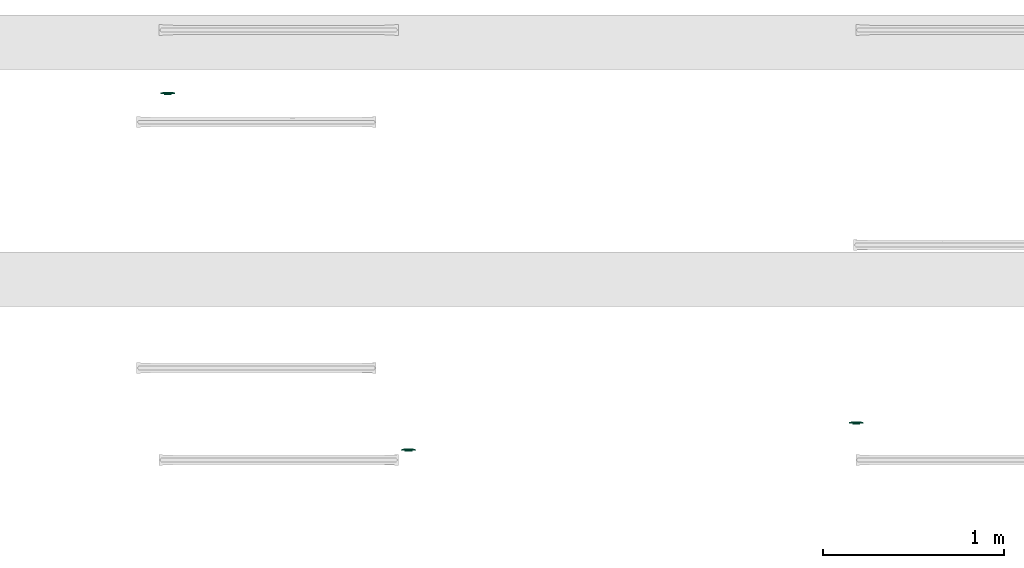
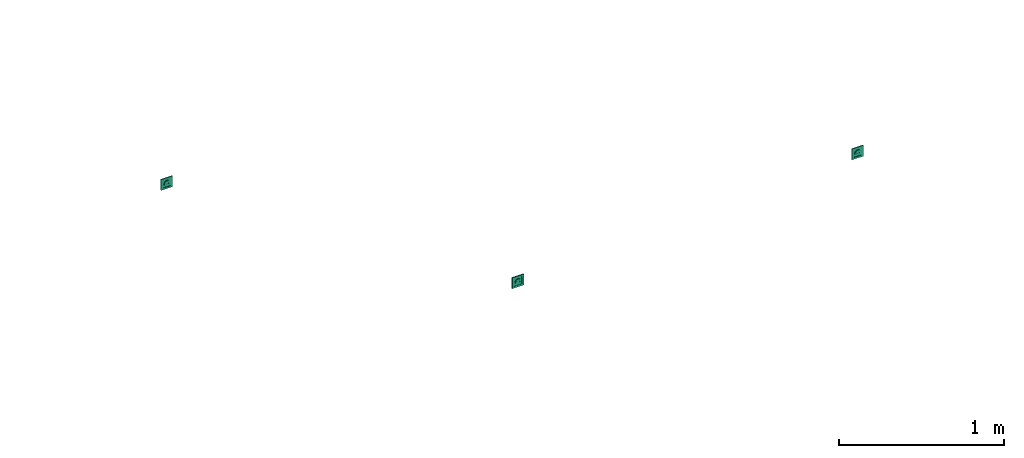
# One storey, part 24 of 146: 3 flow terminals.
"""IFC2X3 building model written with IfcOpenShell, lengths in metres."""

from ifc_helpers import new_model, entity, si_unit, converted_unit, derived_unit, direction, frame, origin, place, context, subcontext, project, spatial, face_set, surface_model, source, transform, mapped, type_object, type_shapes, element, save


model = new_model("IFC2X3")

# Units and contexts
model_context = context("Model", 3, precision=1e-05, world=origin(), true_north=direction((6.12303176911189e-17, 1.0)))
body_context = subcontext(model_context, "Body", "Model", "MODEL_VIEW")
ifc_project = project(units=[si_unit("LENGTHUNIT", "METRE"), si_unit("AREAUNIT", "SQUARE_METRE"), si_unit("VOLUMEUNIT", "CUBIC_METRE"), converted_unit("PLANEANGLEUNIT", "DEGREE", entity("IfcRatioMeasure", 0.0174532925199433), si_unit("PLANEANGLEUNIT", "RADIAN"), dimensions=[0, 0, 0, 0, 0, 0, 0]), si_unit("MASSUNIT", "GRAM", prefix="KILO"), derived_unit("MASSDENSITYUNIT", [(si_unit("MASSUNIT", "GRAM", prefix="KILO"), 1), (si_unit("LENGTHUNIT", "METRE"), -3)]), si_unit("TIMEUNIT", "SECOND"), si_unit("FREQUENCYUNIT", "HERTZ"), si_unit("THERMODYNAMICTEMPERATUREUNIT", "DEGREE_CELSIUS"), derived_unit("THERMALTRANSMITTANCEUNIT", [(si_unit("MASSUNIT", "GRAM", prefix="KILO"), 1), (si_unit("THERMODYNAMICTEMPERATUREUNIT", "KELVIN"), -1), (si_unit("TIMEUNIT", "SECOND"), -3)]), derived_unit("VOLUMETRICFLOWRATEUNIT", [(si_unit("LENGTHUNIT", "METRE"), 3), (si_unit("TIMEUNIT", "SECOND"), -1)]), si_unit("ELECTRICCURRENTUNIT", "AMPERE"), si_unit("ELECTRICVOLTAGEUNIT", "VOLT"), si_unit("POWERUNIT", "WATT"), si_unit("FORCEUNIT", "NEWTON"), si_unit("ILLUMINANCEUNIT", "LUX"), si_unit("LUMINOUSFLUXUNIT", "LUMEN"), si_unit("LUMINOUSINTENSITYUNIT", "CANDELA"), derived_unit("USERDEFINED", [(si_unit("MASSUNIT", "GRAM", prefix="KILO"), -1), (si_unit("LENGTHUNIT", "METRE"), -2), (si_unit("TIMEUNIT", "SECOND"), 3), (si_unit("LUMINOUSFLUXUNIT", "LUMEN"), 1)]), derived_unit("LINEARVELOCITYUNIT", [(si_unit("LENGTHUNIT", "METRE"), 1), (si_unit("TIMEUNIT", "SECOND"), -1)]), si_unit("PRESSUREUNIT", "PASCAL"), derived_unit("USERDEFINED", [(si_unit("LENGTHUNIT", "METRE"), -2), (si_unit("MASSUNIT", "GRAM", prefix="KILO"), 1), (si_unit("TIMEUNIT", "SECOND"), -2)])], contexts=[model_context])

# Site, building, storey
site_placement = place(None, origin())
site = spatial("IfcSite", under=ifc_project, at=site_placement, Name="Default", CompositionType="ELEMENT")
building_placement = place(site_placement, origin())
building = spatial("IfcBuilding", under=site, at=building_placement, CompositionType="ELEMENT")
storey_placement = place(building_placement, origin())
storey = spatial("IfcBuildingStorey", under=building, at=storey_placement, Name="S01", CompositionType="ELEMENT", Elevation=0.0)

# Flow terminals
light_fixture_type = type_object("IfcLightFixtureType", Name="Attente", PredefinedType="NOTDEFINED")
shared_shape = source(origin(), body_context, "Body", "SurfaceModel", [
    surface_model("IfcFaceBasedSurfaceModel", [(0.00225000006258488, 0.00949633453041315, 0.0127499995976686), (0.0, 0.00949633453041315, 0.0104999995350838), (0.0, 0.0101656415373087, 0.0115376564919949), (0.0, 0.0101656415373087, 0.0139623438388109), (0.0, 0.00984531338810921, 0.0144589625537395), (0.0, 0.0102778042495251, 0.0121178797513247), (0.0, 0.0102778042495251, 0.0133821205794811), (0.0, 0.010399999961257, 0.0127499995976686), (0.0, 0.00949633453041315, 0.0149999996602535), (-0.00225000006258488, 0.00949633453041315, 0.0127499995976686), (0.0, 0.00984531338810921, 0.0110410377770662), (0.0, 0.00949633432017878, 0.0127499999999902), (-0.0022499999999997, 0.0094963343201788, 0.0127499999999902), (-0.00217333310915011, 0.00949633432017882, 0.0121676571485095), (-0.0019485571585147, 0.00949633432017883, 0.0116249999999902), (-0.00159099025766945, 0.00949633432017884, 0.0111590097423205), (-0.00112499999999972, 0.00949633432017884, 0.0108014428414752), (-0.000582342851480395, 0.00949633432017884, 0.0105766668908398), (0.0, 0.00949633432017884, 0.0104999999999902), (0.000582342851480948, 0.00949633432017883, 0.0105766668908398), (0.00112500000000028, 0.00949633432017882, 0.0108014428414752), (0.00159099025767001, 0.00949633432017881, 0.0111590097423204), (0.00194855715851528, 0.00949633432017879, 0.0116249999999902), (0.0021733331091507, 0.00949633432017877, 0.0121676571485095), (0.0022500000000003, 0.00949633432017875, 0.0127499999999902), (0.00217333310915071, 0.00949633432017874, 0.0133323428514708), (0.0019485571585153, 0.00949633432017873, 0.0138749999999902), (0.00159099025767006, 0.00949633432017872, 0.0143409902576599), (0.00112500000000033, 0.00949633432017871, 0.0146985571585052), (0.000582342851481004, 0.00949633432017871, 0.0149233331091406), (0.0, 0.00949633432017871, 0.0149999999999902), (-0.000582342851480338, 0.00949633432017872, 0.0149233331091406), (-0.00112499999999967, 0.00949633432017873, 0.0146985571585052), (-0.00159099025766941, 0.00949633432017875, 0.0143409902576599), (-0.00194855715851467, 0.00949633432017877, 0.0138749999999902), (-0.00217333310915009, 0.00949633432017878, 0.0133323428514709), (-0.00224999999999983, -0.00360000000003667, 0.0127499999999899), (-0.00217333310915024, -0.00360000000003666, 0.0121676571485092), (-0.00194855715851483, -0.00360000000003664, 0.0116249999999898), (-0.00159099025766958, -0.00360000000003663, 0.0111590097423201), (-0.00112499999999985, -0.00360000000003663, 0.0108014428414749), (-0.000582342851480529, -0.00360000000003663, 0.0105766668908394), (0.0, -0.00360000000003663, 0.0104999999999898), (0.000582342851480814, -0.00360000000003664, 0.0105766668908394), (0.00112500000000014, -0.00360000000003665, 0.0108014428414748), (0.00159099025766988, -0.00360000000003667, 0.0111590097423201), (0.00194855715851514, -0.00360000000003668, 0.0116249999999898), (0.00217333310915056, -0.0036000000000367, 0.0121676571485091), (0.00225000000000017, -0.00360000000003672, 0.0127499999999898), (0.00217333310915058, -0.00360000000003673, 0.0133323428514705), (0.00194855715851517, -0.00360000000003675, 0.0138749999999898), (0.00159099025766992, -0.00360000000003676, 0.0143409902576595), (0.00112500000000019, -0.00360000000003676, 0.0146985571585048), (0.00058234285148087, -0.00360000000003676, 0.0149233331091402), (0.0, -0.00360000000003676, 0.0149999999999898), (-0.000582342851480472, -0.00360000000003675, 0.0149233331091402), (-0.0011249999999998, -0.00360000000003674, 0.0146985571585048), (-0.00159099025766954, -0.00360000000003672, 0.0143409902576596), (-0.0019485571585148, -0.00360000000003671, 0.0138749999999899), (-0.00217333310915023, -0.00360000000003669, 0.0133323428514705), (-0.0270000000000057, 0.0113999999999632, 0.0269999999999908), (0.0269999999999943, 0.0113999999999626, 0.0269999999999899), (0.0269999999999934, 0.0113999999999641, -0.0270000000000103), (-0.0270000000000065, 0.0113999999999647, -0.0270000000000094), (0.0199999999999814, 0.0113999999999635, 0.0), (0.0193185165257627, 0.0113999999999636, -0.00517638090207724), (0.0173205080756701, 0.0113999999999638, -0.0100000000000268), (0.0141421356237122, 0.0113999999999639, -0.0141421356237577), (0.00999999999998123, 0.011399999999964, -0.0173205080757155), (0.00517638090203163, 0.0113999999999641, -0.019318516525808), (0.0, 0.0113999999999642, -0.0200000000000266), (-0.00517638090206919, 0.0113999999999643, -0.0193185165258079), (-0.0100000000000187, 0.0113999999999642, -0.0173205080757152), (-0.0141421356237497, 0.0113999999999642, -0.0141421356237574), (-0.0173205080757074, 0.0113999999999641, -0.0100000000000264), (-0.0193185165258, 0.011399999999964, -0.0051763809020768), (-0.0200000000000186, 0.0113999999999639, 0.0), (-0.0193185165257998, 0.0113999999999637, 0.00517638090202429), (-0.0173205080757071, 0.0113999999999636, 0.00999999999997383), (-0.0141421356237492, 0.0113999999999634, 0.0141421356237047), (-0.0100000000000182, 0.0113999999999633, 0.0173205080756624), (-0.00517638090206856, 0.0113999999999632, 0.0193185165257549), (0.0, 0.0113999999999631, 0.0199999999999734), (0.00517638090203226, 0.0113999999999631, 0.0193185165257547), (0.0099999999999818, 0.0113999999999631, 0.017320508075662), (0.0141421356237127, 0.0113999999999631, 0.0141421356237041), (0.0173205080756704, 0.0113999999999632, 0.00999999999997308), (0.0193185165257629, 0.0113999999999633, 0.00517638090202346), (-0.0270000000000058, 0.00199999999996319, 0.0269999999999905), (-0.0270000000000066, 0.00199999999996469, -0.0270000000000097), (0.0269999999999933, 0.00199999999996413, -0.0270000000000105), (0.0269999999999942, 0.00199999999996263, 0.0269999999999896), (-0.0210000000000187, 0.00199999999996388, 0.0), (-0.0202844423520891, 0.00199999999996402, -0.00543519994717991), (-0.0181865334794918, 0.00199999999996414, -0.0105000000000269), (-0.0148492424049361, 0.00199999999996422, -0.0148492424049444), (-0.0105000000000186, 0.00199999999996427, -0.0181865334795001), (-0.00543519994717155, 0.00199999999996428, -0.0202844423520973), (0.0, 0.00199999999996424, -0.0210000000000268), (0.00543519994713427, 0.00199999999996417, -0.0202844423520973), (0.0104999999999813, 0.00199999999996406, -0.0181865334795), (0.0148492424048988, 0.00199999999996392, -0.0148492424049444), (0.0181865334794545, 0.00199999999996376, -0.0105000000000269), (0.0202844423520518, 0.0019999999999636, -0.00543519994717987), (0.0209999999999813, 0.00199999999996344, 0.0), (0.0202844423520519, 0.0019999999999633, 0.0054351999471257), (0.0181865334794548, 0.00199999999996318, 0.0104999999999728), (0.0148492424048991, 0.00199999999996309, 0.0148492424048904), (0.0104999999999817, 0.00199999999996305, 0.0181865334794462), (0.00543519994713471, 0.00199999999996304, 0.0202844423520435), (0.0, 0.00199999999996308, 0.0209999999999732), (-0.00543519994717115, 0.00199999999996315, 0.0202844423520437), (-0.0105000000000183, 0.00199999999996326, 0.0181865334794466), (-0.0148492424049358, 0.0019999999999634, 0.014849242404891), (-0.0181865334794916, 0.00199999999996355, 0.0104999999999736), (-0.020284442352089, 0.00199999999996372, 0.00543519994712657), (-0.0200000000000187, -0.00360000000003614, 0.0), (-0.0193185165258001, -0.003600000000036, -0.00517638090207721), (-0.0173205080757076, -0.00360000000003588, -0.0100000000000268), (-0.0141421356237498, -0.0036000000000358, -0.0141421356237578), (-0.0100000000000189, -0.00360000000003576, -0.0173205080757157), (-0.00517638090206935, -0.00360000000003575, -0.0193185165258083), (0.0, -0.00360000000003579, -0.020000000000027), (0.00517638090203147, -0.00360000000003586, -0.0193185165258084), (0.00999999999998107, -0.00360000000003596, -0.0173205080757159), (0.0141421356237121, -0.00360000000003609, -0.0141421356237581), (0.0173205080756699, -0.00360000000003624, -0.0100000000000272), (0.0193185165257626, -0.0036000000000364, -0.00517638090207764), (0.0199999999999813, -0.00360000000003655, 0.0), (0.0193185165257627, -0.00360000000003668, 0.00517638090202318), (0.0173205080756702, -0.0036000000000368, 0.00999999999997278), (0.0141421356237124, -0.00360000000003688, 0.0141421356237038), (0.00999999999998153, -0.00360000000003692, 0.0173205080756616), (0.00517638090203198, -0.00360000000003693, 0.0193185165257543), (0.0, -0.0036000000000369, 0.019999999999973), (-0.00517638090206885, -0.00360000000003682, 0.0193185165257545), (-0.0100000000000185, -0.00360000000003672, 0.0173205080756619), (-0.0141421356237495, -0.00360000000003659, 0.0141421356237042), (-0.0173205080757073, -0.00360000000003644, 0.00999999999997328), (-0.0193185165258, -0.00360000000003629, 0.00517638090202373), (0.0123499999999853, -0.00360000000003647, 0.0), (0.0122562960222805, -0.00360000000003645, -0.000711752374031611), (0.0119815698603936, -0.00360000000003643, -0.00137499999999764), (0.0115445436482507, -0.00360000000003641, -0.00194454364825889), (0.0109749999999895, -0.00360000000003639, -0.00238156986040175), (0.0103117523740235, -0.00360000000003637, -0.00265629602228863), (0.00959999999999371, -0.00360000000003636, -0.00274999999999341), (0.00888824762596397, -0.00360000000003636, -0.00265629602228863), (0.00822499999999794, -0.00360000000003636, -0.00238156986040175), (0.00765545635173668, -0.00360000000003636, -0.00194454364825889), (0.00721843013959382, -0.00360000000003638, -0.00137499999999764), (0.00694370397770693, -0.00360000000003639, -0.000711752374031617), (0.00685000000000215, -0.00360000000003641, 0.0), (0.00694370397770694, -0.00360000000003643, 0.000711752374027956), (0.00721843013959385, -0.00360000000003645, 0.00137499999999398), (0.00765545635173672, -0.00360000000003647, 0.00194454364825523), (0.00822499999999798, -0.00360000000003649, 0.00238156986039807), (0.00888824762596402, -0.00360000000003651, 0.00265629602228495), (0.00959999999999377, -0.00360000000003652, 0.0027499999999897), (0.0103117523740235, -0.00360000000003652, 0.00265629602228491), (0.0109749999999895, -0.00360000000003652, 0.00238156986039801), (0.0115445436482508, -0.00360000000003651, 0.00194454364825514), (0.0119815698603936, -0.0036000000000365, 0.00137499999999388), (0.0122562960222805, -0.00360000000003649, 0.000711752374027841), (-0.00685000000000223, -0.00360000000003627, 0.0), (-0.00694370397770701, -0.00360000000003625, -0.000711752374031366), (-0.0072184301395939, -0.00360000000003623, -0.00137499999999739), (-0.00765545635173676, -0.00360000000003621, -0.00194454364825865), (-0.00822499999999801, -0.00360000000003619, -0.0023815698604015), (-0.00888824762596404, -0.00360000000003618, -0.00265629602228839), (-0.00959999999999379, -0.00360000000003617, -0.00274999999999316), (-0.0103117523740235, -0.00360000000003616, -0.00265629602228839), (-0.0109749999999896, -0.00360000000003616, -0.00238156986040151), (-0.0115445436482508, -0.00360000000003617, -0.00194454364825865), (-0.0119815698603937, -0.00360000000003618, -0.0013749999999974), (-0.0122562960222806, -0.0036000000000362, -0.000711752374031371), (-0.0123499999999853, -0.00360000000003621, 0.0), (-0.0122562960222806, -0.00360000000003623, 0.000711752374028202), (-0.0119815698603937, -0.00360000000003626, 0.00137499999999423), (-0.0115445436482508, -0.00360000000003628, 0.00194454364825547), (-0.0109749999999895, -0.00360000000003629, 0.00238156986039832), (-0.0103117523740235, -0.00360000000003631, 0.00265629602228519), (-0.00959999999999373, -0.00360000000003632, 0.00274999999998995), (-0.00888824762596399, -0.00360000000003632, 0.00265629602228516), (-0.00822499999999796, -0.00360000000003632, 0.00238156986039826), (-0.00765545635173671, -0.00360000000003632, 0.00194454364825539), (-0.00721843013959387, -0.0036000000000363, 0.00137499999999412), (-0.00694370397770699, -0.00360000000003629, 0.000711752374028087), (-0.0210000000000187, -0.00460000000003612, 0.0), (-0.0202844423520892, -0.00460000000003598, -0.00543519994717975), (-0.018186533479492, -0.00460000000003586, -0.0105000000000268), (-0.0148492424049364, -0.00460000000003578, -0.0148492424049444), (-0.0105000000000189, -0.00460000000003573, -0.0181865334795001), (-0.00543519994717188, -0.00460000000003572, -0.0202844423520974), (0.0, -0.00460000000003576, -0.021000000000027), (0.00543519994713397, -0.00460000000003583, -0.0202844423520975), (0.0104999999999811, -0.00460000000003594, -0.0181865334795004), (0.0148492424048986, -0.00460000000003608, -0.0148492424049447), (0.0181865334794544, -0.00460000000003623, -0.0105000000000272), (0.0202844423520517, -0.0046000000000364, -0.0054351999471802), (0.0209999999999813, -0.00460000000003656, 0.0), (0.0202844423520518, -0.0046000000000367, 0.00543519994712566), (0.0181865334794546, -0.00460000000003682, 0.0104999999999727), (0.014849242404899, -0.00460000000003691, 0.0148492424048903), (0.0104999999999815, -0.00460000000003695, 0.0181865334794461), (0.0054351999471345, -0.00460000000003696, 0.0202844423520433), (0.0, -0.00460000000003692, 0.020999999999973), (-0.00543519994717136, -0.00460000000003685, 0.0202844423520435), (-0.0105000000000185, -0.00460000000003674, 0.0181865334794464), (-0.014849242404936, -0.0046000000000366, 0.0148492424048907), (-0.0181865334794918, -0.00460000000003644, 0.0104999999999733), (-0.0202844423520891, -0.00460000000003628, 0.00543519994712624), (0.00685000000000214, -0.00460000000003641, 0.0), (0.00694370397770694, -0.00460000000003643, 0.000711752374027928), (0.00721843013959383, -0.00460000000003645, 0.00137499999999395), (0.0076554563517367, -0.00460000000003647, 0.0019445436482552), (0.00822499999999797, -0.00460000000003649, 0.00238156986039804), (0.00888824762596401, -0.0046000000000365, 0.00265629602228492), (0.00959999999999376, -0.00460000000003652, 0.00274999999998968), (0.0103117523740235, -0.00460000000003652, 0.00265629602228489), (0.0109749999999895, -0.00460000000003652, 0.00238156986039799), (0.0115445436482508, -0.00460000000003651, 0.00194454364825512), (0.0119815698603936, -0.0046000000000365, 0.00137499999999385), (0.0122562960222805, -0.00460000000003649, 0.000711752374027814), (0.0123499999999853, -0.00460000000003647, 0.0), (0.0122562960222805, -0.00460000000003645, -0.00071175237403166), (0.0119815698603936, -0.00460000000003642, -0.00137499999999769), (0.0115445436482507, -0.0046000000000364, -0.00194454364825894), (0.0109749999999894, -0.00460000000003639, -0.00238156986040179), (0.0103117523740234, -0.00460000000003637, -0.00265629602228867), (0.00959999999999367, -0.00460000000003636, -0.00274999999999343), (0.00888824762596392, -0.00460000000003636, -0.00265629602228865), (0.00822499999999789, -0.00460000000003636, -0.00238156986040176), (0.00765545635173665, -0.00460000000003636, -0.00194454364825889), (0.00721843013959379, -0.00460000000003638, -0.00137499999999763), (0.00694370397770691, -0.00460000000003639, -0.0007117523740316), (-0.0123499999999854, -0.00460000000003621, 0.0), (-0.0122562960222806, -0.00460000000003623, 0.000711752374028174), (-0.0119815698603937, -0.00460000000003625, 0.0013749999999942), (-0.0115445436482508, -0.00460000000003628, 0.00194454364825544), (-0.0109749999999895, -0.00460000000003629, 0.00238156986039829), (-0.0103117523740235, -0.00460000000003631, 0.00265629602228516), (-0.00959999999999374, -0.00460000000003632, 0.00274999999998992), (-0.008888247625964, -0.00460000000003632, 0.00265629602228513), (-0.00822499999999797, -0.00460000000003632, 0.00238156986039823), (-0.00765545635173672, -0.00460000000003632, 0.00194454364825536), (-0.00721843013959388, -0.0046000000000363, 0.0013749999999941), (-0.006943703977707, -0.00460000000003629, 0.000711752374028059), (-0.00685000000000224, -0.00460000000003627, 0.0), (-0.00694370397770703, -0.00460000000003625, -0.000711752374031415), (-0.00721843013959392, -0.00460000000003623, -0.00137499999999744), (-0.00765545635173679, -0.00460000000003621, -0.00194454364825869), (-0.00822499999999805, -0.00460000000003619, -0.00238156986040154), (-0.00888824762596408, -0.00460000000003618, -0.00265629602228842), (-0.00959999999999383, -0.00460000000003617, -0.00274999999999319), (-0.0103117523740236, -0.00460000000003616, -0.00265629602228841), (-0.0109749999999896, -0.00460000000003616, -0.00238156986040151), (-0.0115445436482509, -0.00460000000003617, -0.00194454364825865), (-0.0119815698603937, -0.00460000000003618, -0.00137499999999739), (-0.0122562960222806, -0.00460000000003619, -0.000711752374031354), (-0.0403499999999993, 0.00659999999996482, 0.0403499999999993), (-0.0403500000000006, 0.00659999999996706, -0.0403500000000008), (0.0403499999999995, 0.00659999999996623, -0.0403500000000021), (0.0403500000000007, 0.00659999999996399, 0.040349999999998), (-0.0269999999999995, 0.00659999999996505, 0.026999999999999), (0.0270000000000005, 0.0065999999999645, 0.0269999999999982), (0.0269999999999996, 0.006599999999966, -0.0270000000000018), (-0.0270000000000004, 0.00659999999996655, -0.027000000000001), (-0.0269999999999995, 0.0103999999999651, 0.0269999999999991), (0.0270000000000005, 0.0103999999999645, 0.0269999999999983), (0.0269999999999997, 0.010399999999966, -0.0270000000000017), (-0.0270000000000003, 0.0103999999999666, -0.0270000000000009), (-0.0403499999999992, 0.00659999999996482, 0.0403499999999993), (-0.0403500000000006, 0.00659999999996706, -0.0403500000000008), (0.0403499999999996, 0.00659999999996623, -0.0403500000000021), (0.0403500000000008, 0.00659999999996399, 0.040349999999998), (0.0270000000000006, 0.0065999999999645, 0.0269999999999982), (0.0269999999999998, 0.006599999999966, -0.0270000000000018), (-0.0270000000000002, 0.00659999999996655, -0.027000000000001), (-0.0269999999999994, 0.00659999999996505, 0.026999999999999), (-0.0403499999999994, 0.0, 0.0403499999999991), (-0.0403500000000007, 0.0, -0.040350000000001), (0.0403499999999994, 0.0, -0.0403500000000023), (0.0403500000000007, 0.0, 0.0403499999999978), (-0.0269999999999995, 0.0, 0.0269999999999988), (0.0270000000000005, 0.0, 0.026999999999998), (0.0269999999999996, 0.0, -0.027000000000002), (-0.0270000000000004, 0.0, -0.0270000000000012)], [face_set([[[0, 1, 2]], [[3, 4, 2, 5]], [[6, 3, 5, 7]], [[2, 4, 0]], [[4, 8, 0]], [[3, 9, 8]], [[1, 9, 10]], [[2, 3, 6, 7]], [[3, 10, 9]], [[2, 10, 3]], [[11, 1, 0, 8]], [[11, 8, 9, 1]]]), face_set([[[12, 13, 14, 15, 16, 17, 18, 19, 20, 21, 22, 23, 24, 25, 26, 27, 28, 29, 30, 31, 32, 33, 34, 35]], [[36, 37, 38, 39, 40, 41, 42, 43, 44, 45, 46, 47, 48, 49, 50, 51, 52, 53, 54, 55, 56, 57, 58, 59]], [[48, 47, 23, 24]], [[47, 46, 22, 23]], [[45, 44, 20, 21]], [[46, 45, 21, 22]], [[44, 43, 19, 20]], [[18, 19, 43, 42]], [[42, 41, 17, 18]], [[41, 40, 16, 17]], [[39, 38, 14, 15]], [[40, 39, 15, 16]], [[38, 37, 13, 14]], [[12, 13, 37, 36]], [[36, 59, 35, 12]], [[59, 58, 34, 35]], [[57, 56, 32, 33]], [[58, 57, 33, 34]], [[56, 55, 31, 32]], [[30, 31, 55, 54]], [[54, 53, 29, 30]], [[53, 52, 28, 29]], [[51, 50, 26, 27]], [[52, 51, 27, 28]], [[50, 49, 25, 26]], [[24, 25, 49, 48]]]), face_set([[[60, 61, 62, 63], [64, 65, 66, 67, 68, 69, 70, 71, 72, 73, 74, 75, 76, 77, 78, 79, 80, 81, 82, 83, 84, 85, 86, 87]], [[88, 89, 90, 91], [92, 93, 94, 95, 96, 97, 98, 99, 100, 101, 102, 103, 104, 105, 106, 107, 108, 109, 110, 111, 112, 113, 114, 115]], [[61, 60, 88, 91]], [[62, 61, 91, 90]], [[63, 62, 90, 89]], [[60, 63, 89, 88]], [[116, 117, 118, 119, 120, 121, 122, 123, 124, 125, 126, 127, 128, 129, 130, 131, 132, 133, 134, 135, 136, 137, 138, 139], [140, 141, 142, 143, 144, 145, 146, 147, 148, 149, 150, 151, 152, 153, 154, 155, 156, 157, 158, 159, 160, 161, 162, 163], [164, 165, 166, 167, 168, 169, 170, 171, 172, 173, 174, 175, 176, 177, 178, 179, 180, 181, 182, 183, 184, 185, 186, 187]], [[64, 128, 127, 65]], [[65, 127, 126, 66]], [[67, 125, 124, 68]], [[66, 126, 125, 67]], [[68, 124, 123, 69]], [[122, 70, 69, 123]], [[70, 122, 121, 71]], [[71, 121, 120, 72]], [[73, 119, 118, 74]], [[72, 120, 119, 73]], [[74, 118, 117, 75]], [[116, 76, 75, 117]], [[76, 116, 139, 77]], [[77, 139, 138, 78]], [[79, 137, 136, 80]], [[78, 138, 137, 79]], [[80, 136, 135, 81]], [[134, 82, 81, 135]], [[82, 134, 133, 83]], [[83, 133, 132, 84]], [[84, 132, 131, 85]], [[85, 131, 130, 86]], [[130, 129, 87, 86]], [[64, 87, 129, 128]], [[188, 189, 190, 191, 192, 193, 194, 195, 196, 197, 198, 199, 200, 201, 202, 203, 204, 205, 206, 207, 208, 209, 210, 211], [212, 213, 214, 215, 216, 217, 218, 219, 220, 221, 222, 223, 224, 225, 226, 227, 228, 229, 230, 231, 232, 233, 234, 235], [236, 237, 238, 239, 240, 241, 242, 243, 244, 245, 246, 247, 248, 249, 250, 251, 252, 253, 254, 255, 256, 257, 258, 259]], [[200, 199, 103, 104]], [[199, 198, 102, 103]], [[197, 196, 100, 101]], [[198, 197, 101, 102]], [[196, 195, 99, 100]], [[98, 99, 195, 194]], [[194, 193, 97, 98]], [[193, 192, 96, 97]], [[191, 190, 94, 95]], [[192, 191, 95, 96]], [[190, 189, 93, 94]], [[92, 93, 189, 188]], [[188, 211, 115, 92]], [[211, 210, 114, 115]], [[209, 208, 112, 113]], [[210, 209, 113, 114]], [[208, 207, 111, 112]], [[110, 111, 207, 206]], [[206, 205, 109, 110]], [[205, 204, 108, 109]], [[203, 202, 106, 107]], [[204, 203, 107, 108]], [[202, 201, 105, 106]], [[104, 105, 201, 200]], [[141, 225, 226, 142]], [[140, 224, 225, 141]], [[144, 228, 229, 145]], [[143, 227, 228, 144]], [[142, 226, 227, 143]], [[230, 146, 145, 229]], [[149, 233, 232, 148]], [[148, 232, 231, 147]], [[152, 212, 235, 151]], [[151, 235, 234, 150]], [[150, 234, 233, 149]], [[146, 230, 231, 147]], [[154, 214, 213, 153]], [[153, 213, 212, 152]], [[157, 217, 216, 156]], [[156, 216, 215, 155]], [[155, 215, 214, 154]], [[218, 158, 157, 217]], [[160, 220, 221, 161]], [[159, 219, 220, 160]], [[163, 223, 224, 140]], [[162, 222, 223, 163]], [[161, 221, 222, 162]], [[158, 218, 219, 159]], [[166, 250, 249, 165]], [[165, 249, 248, 164]], [[169, 253, 252, 168]], [[168, 252, 251, 167]], [[167, 251, 250, 166]], [[254, 170, 169, 253]], [[172, 256, 257, 173]], [[171, 255, 256, 172]], [[175, 259, 236, 176]], [[174, 258, 259, 175]], [[173, 257, 258, 174]], [[170, 254, 255, 171]], [[177, 237, 238, 178]], [[176, 236, 237, 177]], [[180, 240, 241, 181]], [[179, 239, 240, 180]], [[178, 238, 239, 179]], [[242, 182, 181, 241]], [[185, 245, 244, 184]], [[184, 244, 243, 183]], [[164, 248, 247, 187]], [[187, 247, 246, 186]], [[186, 246, 245, 185]], [[182, 242, 243, 183]]]), face_set([[[260, 261, 262, 263], [264, 265, 266, 267]], [[260, 268, 269, 263]], [[263, 269, 270, 262]], [[262, 270, 271, 261]], [[261, 271, 268, 260]], [[264, 265, 269, 268]], [[265, 266, 270, 269]], [[266, 267, 271, 270]], [[268, 271, 267, 264]]]), face_set([[[272, 273, 274, 275], [276, 277, 278, 279]], [[280, 281, 282, 283], [284, 285, 286, 287]], [[275, 272, 280, 283]], [[274, 275, 283, 282]], [[273, 274, 282, 281]], [[272, 273, 281, 280]], [[284, 285, 276, 279]], [[285, 286, 277, 276]], [[286, 287, 278, 277]], [[279, 278, 287, 284]]])]),
])
type_shapes(light_fixture_type, [shared_shape])
for number, where, name in (
    (1, (38.8248333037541, -190.192387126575, 0.0), "INT_Attente électrique:Attente"),
    (2, (36.35667264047, -190.342165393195, 0.0), "INT_Attente électrique:Attente"),
    (3, (35.0299702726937, -188.375248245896, 0.0), "INT_Attente électrique:Attente"),
):
    element("IfcFlowTerminal", number, at=place(storey_placement, frame(where)), inside=storey, type_object=light_fixture_type, Name=name, ObjectType="INT_Attente électrique:Attente", context=body_context, shape_type="MappedRepresentation", body=[
        mapped(shared_shape, transform((0.0, 0.0, 0.0), scale=1.0)),
    ])

save(model, "model.ifc")
